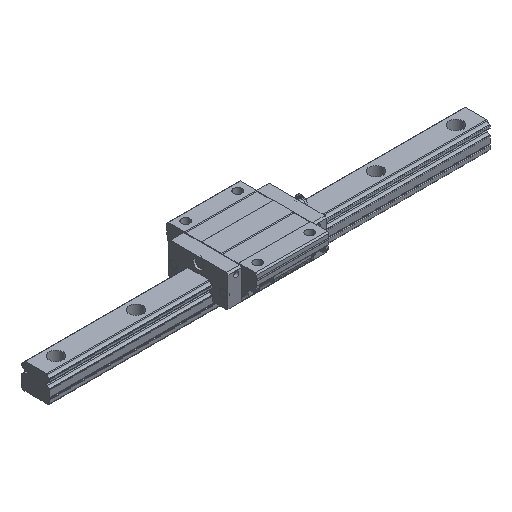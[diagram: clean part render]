
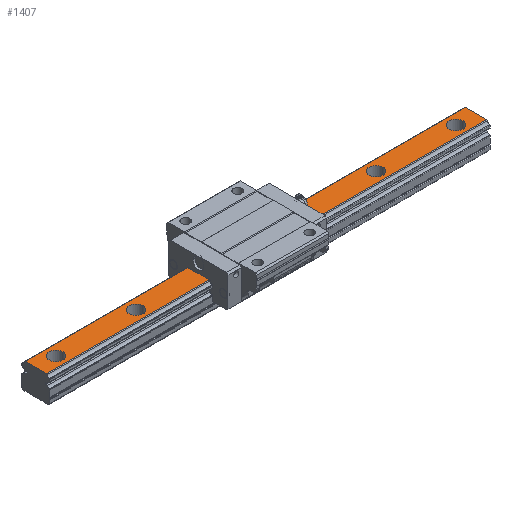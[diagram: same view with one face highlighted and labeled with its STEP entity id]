
A CAD part, isometric view. The second image highlights one B-rep face of the part: STEP entity #1407.
In plain terms, the highlighted planar face has unit normal (0, 0, 1).
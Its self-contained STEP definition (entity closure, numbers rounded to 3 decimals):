
#137=CARTESIAN_POINT('',(427.0,0.,26.0));
#138=VERTEX_POINT('',#137);
#139=CARTESIAN_POINT('',(420.0,0.,26.0));
#140=DIRECTION('',(0.0,0.0,-1.0));
#141=DIRECTION('',(1.0,0.0,0.0));
#142=AXIS2_PLACEMENT_3D('',#139,#140,#141);
#143=CIRCLE('',#142,7.);
#144=EDGE_CURVE('',#138,#138,#143,.T.);
#247=CARTESIAN_POINT('',(347.0,0.,26.0));
#248=VERTEX_POINT('',#247);
#249=CARTESIAN_POINT('',(340.0,0.,26.0));
#250=DIRECTION('',(0.0,0.0,-1.0));
#251=DIRECTION('',(1.0,0.0,0.0));
#252=AXIS2_PLACEMENT_3D('',#249,#250,#251);
#253=CIRCLE('',#252,7.);
#254=EDGE_CURVE('',#248,#248,#253,.T.);
#357=CARTESIAN_POINT('',(267.0,0.,26.0));
#358=VERTEX_POINT('',#357);
#359=CARTESIAN_POINT('',(260.0,0.,26.0));
#360=DIRECTION('',(0.0,0.0,-1.0));
#361=DIRECTION('',(1.0,0.0,0.0));
#362=AXIS2_PLACEMENT_3D('',#359,#360,#361);
#363=CIRCLE('',#362,7.);
#364=EDGE_CURVE('',#358,#358,#363,.T.);
#467=CARTESIAN_POINT('',(187.0,0.,26.0));
#468=VERTEX_POINT('',#467);
#469=CARTESIAN_POINT('',(180.0,0.,26.0));
#470=DIRECTION('',(0.0,0.0,-1.0));
#471=DIRECTION('',(1.0,0.0,0.0));
#472=AXIS2_PLACEMENT_3D('',#469,#470,#471);
#473=CIRCLE('',#472,7.);
#474=EDGE_CURVE('',#468,#468,#473,.T.);
#577=CARTESIAN_POINT('',(107.,0.,26.0));
#578=VERTEX_POINT('',#577);
#579=CARTESIAN_POINT('',(100.0,0.,26.0));
#580=DIRECTION('',(0.0,0.0,-1.0));
#581=DIRECTION('',(1.0,0.0,0.0));
#582=AXIS2_PLACEMENT_3D('',#579,#580,#581);
#583=CIRCLE('',#582,7.);
#584=EDGE_CURVE('',#578,#578,#583,.T.);
#687=CARTESIAN_POINT('',(27.0,0.,26.0));
#688=VERTEX_POINT('',#687);
#689=CARTESIAN_POINT('',(20.0,0.,26.0));
#690=DIRECTION('',(0.0,0.0,-1.0));
#691=DIRECTION('',(1.0,0.0,0.0));
#692=AXIS2_PLACEMENT_3D('',#689,#690,#691);
#693=CIRCLE('',#692,7.);
#694=EDGE_CURVE('',#688,#688,#693,.T.);
#1333=CARTESIAN_POINT('',(440.0,-10.751,26.0));
#1334=VERTEX_POINT('',#1333);
#1341=CARTESIAN_POINT('',(0.0,-10.751,26.0));
#1342=VERTEX_POINT('',#1341);
#1343=CARTESIAN_POINT('',(0.0,-10.751,26.0));
#1344=DIRECTION('',(1.0,0.0,0.0));
#1345=VECTOR('',#1344,440.0);
#1346=LINE('',#1343,#1345);
#1347=EDGE_CURVE('',#1342,#1334,#1346,.T.);
#1359=CARTESIAN_POINT('',(0.0,-10.751,26.0));
#1360=DIRECTION('',(0.0,0.0,1.0));
#1361=DIRECTION('',(1.0,0.0,0.0));
#1362=AXIS2_PLACEMENT_3D('',#1359,#1360,#1361);
#1363=PLANE('',#1362);
#1364=CARTESIAN_POINT('',(440.0,10.751,26.0));
#1365=VERTEX_POINT('',#1364);
#1366=CARTESIAN_POINT('',(440.0,-10.751,26.0));
#1367=DIRECTION('',(0.0,1.0,0.0));
#1368=VECTOR('',#1367,21.501);
#1369=LINE('',#1366,#1368);
#1370=EDGE_CURVE('',#1334,#1365,#1369,.T.);
#1371=ORIENTED_EDGE('',*,*,#1370,.T.);
#1372=CARTESIAN_POINT('',(0.0,10.751,26.0));
#1373=VERTEX_POINT('',#1372);
#1374=CARTESIAN_POINT('',(0.0,10.751,26.0));
#1375=DIRECTION('',(1.0,0.0,0.0));
#1376=VECTOR('',#1375,440.0);
#1377=LINE('',#1374,#1376);
#1378=EDGE_CURVE('',#1373,#1365,#1377,.T.);
#1379=ORIENTED_EDGE('',*,*,#1378,.F.);
#1380=CARTESIAN_POINT('',(0.0,10.751,26.0));
#1381=DIRECTION('',(0.0,-1.0,0.0));
#1382=VECTOR('',#1381,21.501);
#1383=LINE('',#1380,#1382);
#1384=EDGE_CURVE('',#1373,#1342,#1383,.T.);
#1385=ORIENTED_EDGE('',*,*,#1384,.T.);
#1386=ORIENTED_EDGE('',*,*,#1347,.T.);
#1387=EDGE_LOOP('',(#1371,#1379,#1385,#1386));
#1388=FACE_OUTER_BOUND('',#1387,.T.);
#1389=ORIENTED_EDGE('',*,*,#144,.T.);
#1390=EDGE_LOOP('',(#1389));
#1391=FACE_BOUND('',#1390,.T.);
#1392=ORIENTED_EDGE('',*,*,#254,.T.);
#1393=EDGE_LOOP('',(#1392));
#1394=FACE_BOUND('',#1393,.T.);
#1395=ORIENTED_EDGE('',*,*,#364,.T.);
#1396=EDGE_LOOP('',(#1395));
#1397=FACE_BOUND('',#1396,.T.);
#1398=ORIENTED_EDGE('',*,*,#474,.T.);
#1399=EDGE_LOOP('',(#1398));
#1400=FACE_BOUND('',#1399,.T.);
#1401=ORIENTED_EDGE('',*,*,#584,.T.);
#1402=EDGE_LOOP('',(#1401));
#1403=FACE_BOUND('',#1402,.T.);
#1404=ORIENTED_EDGE('',*,*,#694,.T.);
#1405=EDGE_LOOP('',(#1404));
#1406=FACE_BOUND('',#1405,.T.);
#1407=ADVANCED_FACE('',(#1388,#1391,#1394,#1397,#1400,#1403,#1406),#1363,.T.);
